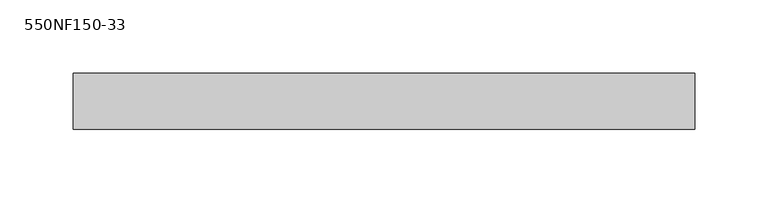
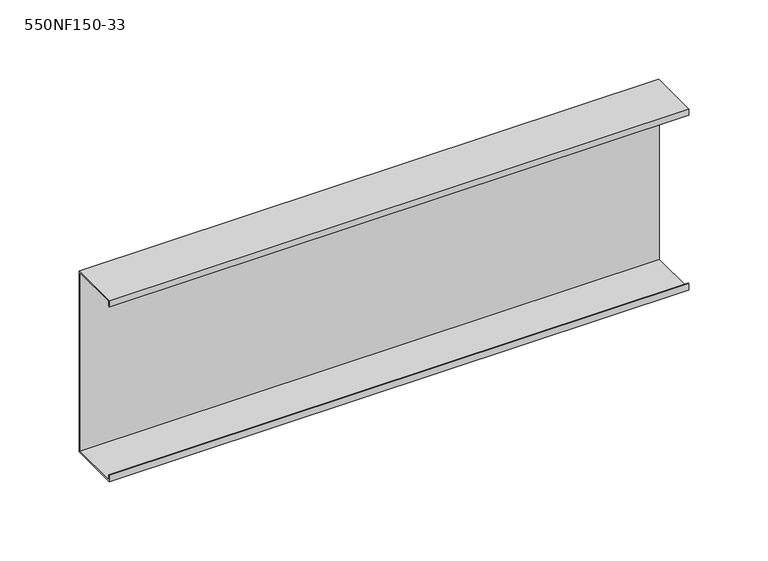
"""IFC4 building model written with IfcOpenShell, lengths in millimetres: beam geometry, BIMSF-SSMA-S : 550NF150-33."""

from ifc_helpers import new_model, si_unit, frame, origin, place, context, project, spatial, polyline, outline, extrude, source, transform, mapped, element, save


def beam_550nf150_33_646c72d6(model_context):
    return source(origin(), model_context, "Body", "SweptSolid", [
        extrude(outline(polyline([(19.05, 69.85), (19.05, -69.85), (-19.05, -69.85), (-19.05, -65.0748), (-18.1676842, -65.0748), (-18.1676842, -68.9676842), (18.1676842, -68.9676842), (18.1676842, 68.9676842), (-18.1676842, 68.9676842), (-18.1676842, 65.0748), (-19.05, 65.0748), (-19.05, 69.85), (19.05, 69.85)])), frame((-211.534375, 0.0, 0.0), z_axis=(1.0, 0.0, 0.0), x_axis=(0.0, 1.0, 0.0)), (0.0, 0.0, 1.0), 423.06875),
    ])


if __name__ == "__main__":
    model = new_model("IFC4")
    model_context = context("Model", 3, world=origin())
    ifc_project = project(units=[si_unit("LENGTHUNIT", "METRE", prefix="MILLI")], contexts=[model_context])
    site = spatial("IfcSite", under=ifc_project)
    building = spatial("IfcBuilding", under=site)
    placement = place(None, origin())
    beam_550nf150_33_shape = beam_550nf150_33_646c72d6(model_context)
    element("IfcBeam", 1, ObjectType="BIMSF-SSMA-S : 550NF150-33", at=placement, inside=building, context=model_context, shape_type="MappedRepresentation", body=[
        mapped(beam_550nf150_33_shape, transform((0.0, 0.0, 0.0), x_axis=(1.0, 0.0, 0.0), y_axis=(0.0, 1.0, 0.0), z_axis=(0.0, 0.0, 1.0))),
    ])
    save(model, "model.ifc")
